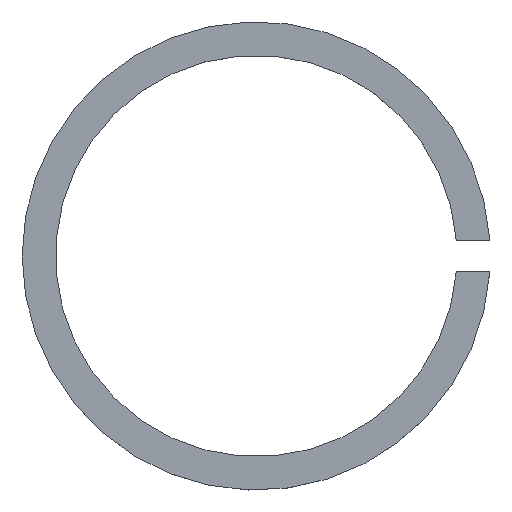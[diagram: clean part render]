
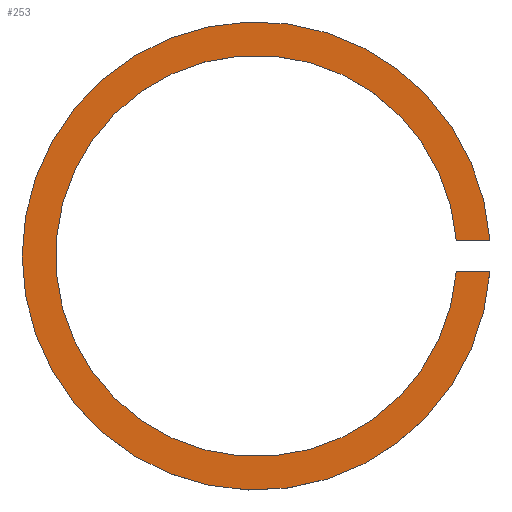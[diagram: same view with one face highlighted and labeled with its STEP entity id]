
A CAD part, top view. The second image highlights one B-rep face of the part: STEP entity #253.
In plain terms, the highlighted planar face has unit normal (0, 0, 1).
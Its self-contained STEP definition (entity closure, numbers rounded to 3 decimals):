
#33 = CYLINDRICAL_SURFACE('',#34,14.7);
#34 = AXIS2_PLACEMENT_3D('',#35,#36,#37);
#35 = CARTESIAN_POINT('',(0.,0.,177.25));
#36 = DIRECTION('',(-0.,-0.,-1.));
#37 = DIRECTION('',(1.,0.,0.));
#58 = VERTEX_POINT('',#59);
#59 = CARTESIAN_POINT('',(14.666,1.,178.45));
#72 = PLANE('',#73);
#73 = AXIS2_PLACEMENT_3D('',#74,#75,#76);
#74 = CARTESIAN_POINT('',(11.6,1.,176.25));
#75 = DIRECTION('',(-0.,1.,0.));
#76 = DIRECTION('',(0.,0.,1.));
#83 = EDGE_CURVE('',#58,#84,#86,.T.);
#84 = VERTEX_POINT('',#85);
#85 = CARTESIAN_POINT('',(14.666,-1.,178.45));
#86 = SURFACE_CURVE('',#87,(#92,#99),.PCURVE_S1.);
#87 = CIRCLE('',#88,14.7);
#88 = AXIS2_PLACEMENT_3D('',#89,#90,#91);
#89 = CARTESIAN_POINT('',(0.,0.,178.45));
#90 = DIRECTION('',(0.,0.,1.));
#91 = DIRECTION('',(1.,0.,0.));
#92 = PCURVE('',#33,#93);
#93 = DEFINITIONAL_REPRESENTATION('',(#94),#98);
#94 = LINE('',#95,#96);
#95 = CARTESIAN_POINT('',(-0.,-1.2));
#96 = VECTOR('',#97,1.);
#97 = DIRECTION('',(-1.,0.));
#98 = ( GEOMETRIC_REPRESENTATION_CONTEXT(2) 
PARAMETRIC_REPRESENTATION_CONTEXT() REPRESENTATION_CONTEXT('2D SPACE',''
  ) );
#99 = PCURVE('',#100,#105);
#100 = PLANE('',#101);
#101 = AXIS2_PLACEMENT_3D('',#102,#103,#104);
#102 = CARTESIAN_POINT('',(0.,0.,178.45)
  );
#103 = DIRECTION('',(0.,0.,1.));
#104 = DIRECTION('',(1.,0.,-0.));
#105 = DEFINITIONAL_REPRESENTATION('',(#106),#110);
#106 = CIRCLE('',#107,14.7);
#107 = AXIS2_PLACEMENT_2D('',#108,#109);
#108 = CARTESIAN_POINT('',(0.,0.));
#109 = DIRECTION('',(1.,0.));
#110 = ( GEOMETRIC_REPRESENTATION_CONTEXT(2) 
PARAMETRIC_REPRESENTATION_CONTEXT() REPRESENTATION_CONTEXT('2D SPACE',''
  ) );
#125 = PLANE('',#126);
#126 = AXIS2_PLACEMENT_3D('',#127,#128,#129);
#127 = CARTESIAN_POINT('',(11.6,-1.,176.25));
#128 = DIRECTION('',(-0.,1.,0.));
#129 = DIRECTION('',(0.,0.,1.));
#197 = CYLINDRICAL_SURFACE('',#198,12.6);
#198 = AXIS2_PLACEMENT_3D('',#199,#200,#201);
#199 = CARTESIAN_POINT('',(0.,0.,177.25)
  );
#200 = DIRECTION('',(-0.,-0.,-1.));
#201 = DIRECTION('',(1.,0.,0.));
#212 = EDGE_CURVE('',#84,#213,#215,.T.);
#213 = VERTEX_POINT('',#214);
#214 = CARTESIAN_POINT('',(12.56,-1.,178.45));
#215 = SURFACE_CURVE('',#216,(#220,#226),.PCURVE_S1.);
#216 = LINE('',#217,#218);
#217 = CARTESIAN_POINT('',(5.8,-1.,178.45));
#218 = VECTOR('',#219,1.);
#219 = DIRECTION('',(-1.,-0.,0.));
#220 = PCURVE('',#125,#221);
#221 = DEFINITIONAL_REPRESENTATION('',(#222),#225);
#222 = B_SPLINE_CURVE_WITH_KNOTS('',1,(#223,#224),.UNSPECIFIED.,.F.,.F.,
  (2,2),(-8.9,-5.8),.PIECEWISE_BEZIER_KNOTS.);
#223 = CARTESIAN_POINT('',(2.2,3.1));
#224 = CARTESIAN_POINT('',(2.2,0.));
#225 = ( GEOMETRIC_REPRESENTATION_CONTEXT(2) 
PARAMETRIC_REPRESENTATION_CONTEXT() REPRESENTATION_CONTEXT('2D SPACE',''
  ) );
#226 = PCURVE('',#100,#227);
#227 = DEFINITIONAL_REPRESENTATION('',(#228),#231);
#228 = B_SPLINE_CURVE_WITH_KNOTS('',1,(#229,#230),.UNSPECIFIED.,.F.,.F.,
  (2,2),(-8.9,-5.8),.PIECEWISE_BEZIER_KNOTS.);
#229 = CARTESIAN_POINT('',(14.7,-1.));
#230 = CARTESIAN_POINT('',(11.6,-1.));
#231 = ( GEOMETRIC_REPRESENTATION_CONTEXT(2) 
PARAMETRIC_REPRESENTATION_CONTEXT() REPRESENTATION_CONTEXT('2D SPACE',''
  ) );
#253 = ADVANCED_FACE('',(#254),#100,.T.);
#254 = FACE_BOUND('',#255,.T.);
#255 = EDGE_LOOP('',(#256,#277,#278,#279));
#256 = ORIENTED_EDGE('',*,*,#257,.F.);
#257 = EDGE_CURVE('',#58,#258,#260,.T.);
#258 = VERTEX_POINT('',#259);
#259 = CARTESIAN_POINT('',(12.56,1.,178.45));
#260 = SURFACE_CURVE('',#261,(#265,#271),.PCURVE_S1.);
#261 = LINE('',#262,#263);
#262 = CARTESIAN_POINT('',(5.8,1.,178.45));
#263 = VECTOR('',#264,1.);
#264 = DIRECTION('',(-1.,-0.,0.));
#265 = PCURVE('',#100,#266);
#266 = DEFINITIONAL_REPRESENTATION('',(#267),#270);
#267 = B_SPLINE_CURVE_WITH_KNOTS('',1,(#268,#269),.UNSPECIFIED.,.F.,.F.,
  (2,2),(-8.9,-5.8),.PIECEWISE_BEZIER_KNOTS.);
#268 = CARTESIAN_POINT('',(14.7,1.));
#269 = CARTESIAN_POINT('',(11.6,1.));
#270 = ( GEOMETRIC_REPRESENTATION_CONTEXT(2) 
PARAMETRIC_REPRESENTATION_CONTEXT() REPRESENTATION_CONTEXT('2D SPACE',''
  ) );
#271 = PCURVE('',#72,#272);
#272 = DEFINITIONAL_REPRESENTATION('',(#273),#276);
#273 = B_SPLINE_CURVE_WITH_KNOTS('',1,(#274,#275),.UNSPECIFIED.,.F.,.F.,
  (2,2),(-8.9,-5.8),.PIECEWISE_BEZIER_KNOTS.);
#274 = CARTESIAN_POINT('',(2.2,3.1));
#275 = CARTESIAN_POINT('',(2.2,0.));
#276 = ( GEOMETRIC_REPRESENTATION_CONTEXT(2) 
PARAMETRIC_REPRESENTATION_CONTEXT() REPRESENTATION_CONTEXT('2D SPACE',''
  ) );
#277 = ORIENTED_EDGE('',*,*,#83,.T.);
#278 = ORIENTED_EDGE('',*,*,#212,.T.);
#279 = ORIENTED_EDGE('',*,*,#280,.F.);
#280 = EDGE_CURVE('',#258,#213,#281,.T.);
#281 = SURFACE_CURVE('',#282,(#287,#294),.PCURVE_S1.);
#282 = CIRCLE('',#283,12.6);
#283 = AXIS2_PLACEMENT_3D('',#284,#285,#286);
#284 = CARTESIAN_POINT('',(0.,0.,178.45)
  );
#285 = DIRECTION('',(0.,0.,1.));
#286 = DIRECTION('',(1.,0.,0.));
#287 = PCURVE('',#100,#288);
#288 = DEFINITIONAL_REPRESENTATION('',(#289),#293);
#289 = CIRCLE('',#290,12.6);
#290 = AXIS2_PLACEMENT_2D('',#291,#292);
#291 = CARTESIAN_POINT('',(0.,0.));
#292 = DIRECTION('',(1.,0.));
#293 = ( GEOMETRIC_REPRESENTATION_CONTEXT(2) 
PARAMETRIC_REPRESENTATION_CONTEXT() REPRESENTATION_CONTEXT('2D SPACE',''
  ) );
#294 = PCURVE('',#197,#295);
#295 = DEFINITIONAL_REPRESENTATION('',(#296),#300);
#296 = LINE('',#297,#298);
#297 = CARTESIAN_POINT('',(-0.,-1.2));
#298 = VECTOR('',#299,1.);
#299 = DIRECTION('',(-1.,0.));
#300 = ( GEOMETRIC_REPRESENTATION_CONTEXT(2) 
PARAMETRIC_REPRESENTATION_CONTEXT() REPRESENTATION_CONTEXT('2D SPACE',''
  ) );
